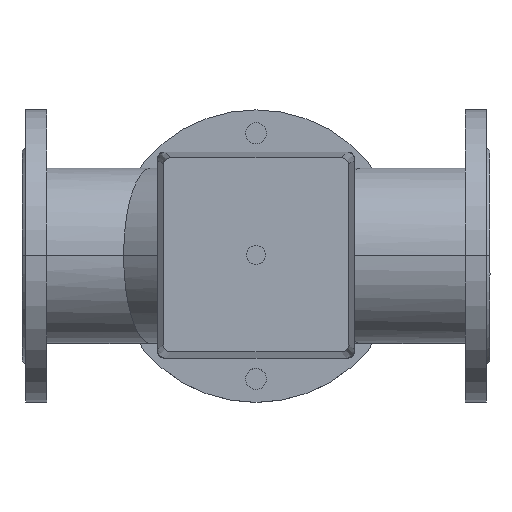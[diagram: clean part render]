
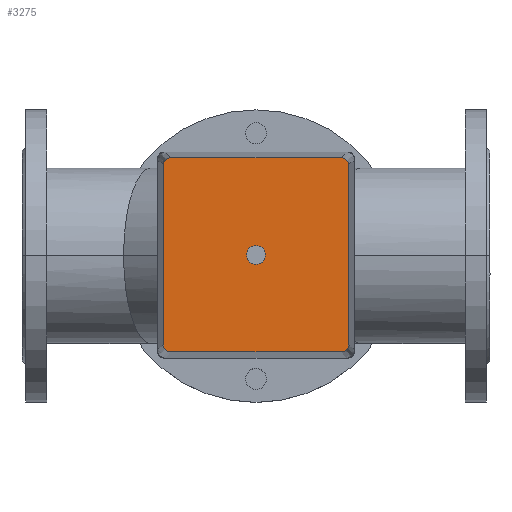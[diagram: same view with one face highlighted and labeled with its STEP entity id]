
A CAD part, top view. The second image highlights one B-rep face of the part: STEP entity #3275.
In plain terms, the highlighted planar face has unit normal (0, 0, 1).
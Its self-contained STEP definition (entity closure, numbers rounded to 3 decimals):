
#280=LINE('',#5644,#472);
#281=LINE('',#5648,#473);
#282=LINE('',#5652,#474);
#283=LINE('',#5656,#475);
#472=VECTOR('',#4532,304.8);
#473=VECTOR('',#4535,304.8);
#474=VECTOR('',#4538,304.8);
#475=VECTOR('',#4541,304.8);
#817=FACE_OUTER_BOUND('',#1047,.T.);
#1047=EDGE_LOOP('',(#2652,#2653,#2654,#2655,#2656,#2657,#2658,#2659));
#1278=CIRCLE('',#3655,6.);
#1279=CIRCLE('',#3656,6.);
#1280=CIRCLE('',#3657,6.);
#1281=CIRCLE('',#3658,6.);
#1550=VERTEX_POINT('',#5642);
#1551=VERTEX_POINT('',#5643);
#1552=VERTEX_POINT('',#5645);
#1553=VERTEX_POINT('',#5647);
#1554=VERTEX_POINT('',#5649);
#1555=VERTEX_POINT('',#5651);
#1556=VERTEX_POINT('',#5653);
#1557=VERTEX_POINT('',#5655);
#1932=EDGE_CURVE('',#1550,#1551,#280,.T.);
#1933=EDGE_CURVE('',#1551,#1552,#1278,.T.);
#1934=EDGE_CURVE('',#1552,#1553,#281,.T.);
#1935=EDGE_CURVE('',#1553,#1554,#1279,.T.);
#1936=EDGE_CURVE('',#1554,#1555,#282,.T.);
#1937=EDGE_CURVE('',#1555,#1556,#1280,.T.);
#1938=EDGE_CURVE('',#1556,#1557,#283,.T.);
#1939=EDGE_CURVE('',#1557,#1550,#1281,.T.);
#2652=ORIENTED_EDGE('',*,*,#1932,.T.);
#2653=ORIENTED_EDGE('',*,*,#1933,.T.);
#2654=ORIENTED_EDGE('',*,*,#1934,.T.);
#2655=ORIENTED_EDGE('',*,*,#1935,.T.);
#2656=ORIENTED_EDGE('',*,*,#1936,.T.);
#2657=ORIENTED_EDGE('',*,*,#1937,.T.);
#2658=ORIENTED_EDGE('',*,*,#1938,.T.);
#2659=ORIENTED_EDGE('',*,*,#1939,.T.);
#2955=PLANE('',#3654);
#3275=ADVANCED_FACE('',(#817),#2955,.T.);
#3654=AXIS2_PLACEMENT_3D('',#5641,#4530,#4531);
#3655=AXIS2_PLACEMENT_3D('',#5646,#4533,#4534);
#3656=AXIS2_PLACEMENT_3D('',#5650,#4536,#4537);
#3657=AXIS2_PLACEMENT_3D('',#5654,#4539,#4540);
#3658=AXIS2_PLACEMENT_3D('',#5657,#4542,#4543);
#4530=DIRECTION('center_axis',(0.,0.,1.));
#4531=DIRECTION('ref_axis',(0.,-1.,0.));
#4532=DIRECTION('',(0.,-1.,0.));
#4533=DIRECTION('center_axis',(0.,0.,1.));
#4534=DIRECTION('ref_axis',(1.,0.,0.));
#4535=DIRECTION('',(1.,0.,0.));
#4536=DIRECTION('center_axis',(0.,0.,1.));
#4537=DIRECTION('ref_axis',(1.,0.,0.));
#4538=DIRECTION('',(0.,1.,0.));
#4539=DIRECTION('center_axis',(0.,0.,1.));
#4540=DIRECTION('ref_axis',(1.,0.,0.));
#4541=DIRECTION('',(-1.,0.,0.));
#4542=DIRECTION('center_axis',(0.,0.,1.));
#4543=DIRECTION('ref_axis',(1.,0.,0.));
#5641=CARTESIAN_POINT('Origin',(0.,0.,
279.));
#5642=CARTESIAN_POINT('',(-83.,73.,279.));
#5643=CARTESIAN_POINT('',(-83.,-73.,279.));
#5644=CARTESIAN_POINT('',(-83.,-73.,279.));
#5645=CARTESIAN_POINT('',(-77.,-79.,279.));
#5646=CARTESIAN_POINT('Origin',(-77.,-73.,279.));
#5647=CARTESIAN_POINT('',(77.,-79.,279.));
#5648=CARTESIAN_POINT('',(77.,-79.,279.));
#5649=CARTESIAN_POINT('',(83.,-73.,279.));
#5650=CARTESIAN_POINT('Origin',(77.,-73.,279.));
#5651=CARTESIAN_POINT('',(83.,73.,279.));
#5652=CARTESIAN_POINT('',(83.,73.,279.));
#5653=CARTESIAN_POINT('',(77.,79.,279.));
#5654=CARTESIAN_POINT('Origin',(77.,73.,279.));
#5655=CARTESIAN_POINT('',(-77.,79.,279.));
#5656=CARTESIAN_POINT('',(-77.,79.,279.));
#5657=CARTESIAN_POINT('Origin',(-77.,73.,279.));
